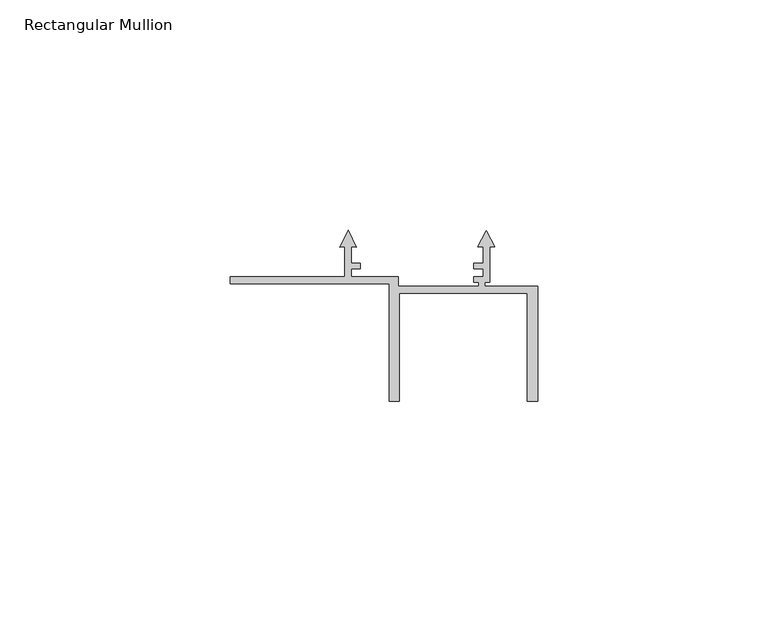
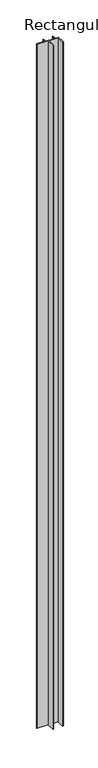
"""IFC4 building model written with IfcOpenShell, lengths in millimetres: member geometry, Rectangular Mullion : Renson_Linarte_LA-E25-01 Zone B."""

from ifc_helpers import new_model, si_unit, frame, origin, place, context, project, spatial, polyline, outline, extrude, source, transform, mapped, element, save


def rectangular_mullion_45ac8ef7(model_context):
    return source(origin(), model_context, "Body", "SweptSolid", [
        extrude(outline(polyline([(-66.6, -21.6000494), (-66.6, -20.1000494), (-41.8, -20.1000494), (-41.8, -13.5071867), (-42.9255299, -13.6056578), (-41.0999986, -10.0228474), (-39.2744672, -13.6056581), (-40.3999998, -13.5071867), (-40.3999998, -17.099221), (-38.4077357, -17.099221), (-38.4077357, -18.3000494), (-40.3999995, -18.3000494), (-40.3999995, -20.1000494), (-30.1732051, -20.1000494), (-30.1732051, -22.1000494), (-12.8, -22.1000494), (-12.8, -21.3015754), (-13.7880766, -21.3015754), (-13.7880766, -20.1000494), (-11.8091794, -20.1000494), (-11.8091794, -18.3000494), (-13.7875618, -18.3000494), (-13.7875618, -17.0979618), (-11.7999987, -17.0979618), (-11.7999987, -13.5038712), (-12.9157351, -13.6014855), (-11.0999986, -10.037898), (-9.284262, -13.6014855), (-10.3999985, -13.5038712), (-10.3999985, -21.3015754), (-11.4, -21.3015754), (-11.4, -22.1000494), (0.0, -22.1000494), (0.0, -47.1000494), (-2.2, -47.1000494), (-2.2, -23.6000494), (-30.0, -23.6000494), (-30.0, -47.1000494), (-32.2, -47.1000494), (-32.2, -21.6000494), (-66.6, -21.6000494)])), frame((0.0, 0.0, -2225.0), z_axis=(0.0, 0.0, 1.0), x_axis=(1.0, 0.0, 0.0)), (0.0, 0.0, 1.0), 2225.0),
    ])


if __name__ == "__main__":
    model = new_model("IFC4")
    model_context = context("Model", 3, world=origin())
    ifc_project = project(units=[si_unit("LENGTHUNIT", "METRE", prefix="MILLI")], contexts=[model_context])
    site = spatial("IfcSite", under=ifc_project)
    building = spatial("IfcBuilding", under=site)
    placement = place(None, origin())
    rectangular_mullion_shape = rectangular_mullion_45ac8ef7(model_context)
    element("IfcMember", 1, ObjectType="Rectangular Mullion : Renson_Linarte_LA-E25-01 Zone B", at=placement, inside=building, context=model_context, shape_type="MappedRepresentation", body=[
        mapped(rectangular_mullion_shape, transform((0.0, 0.0, 0.0), x_axis=(1.0, 0.0, 0.0), y_axis=(0.0, 1.0, 0.0), z_axis=(0.0, 0.0, 1.0))),
    ])
    save(model, "model.ifc")
